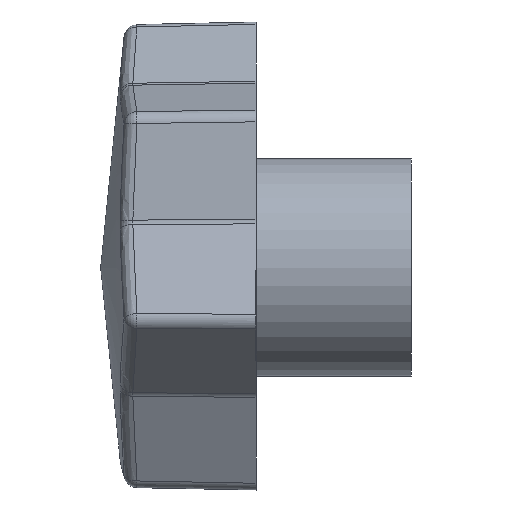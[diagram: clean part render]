
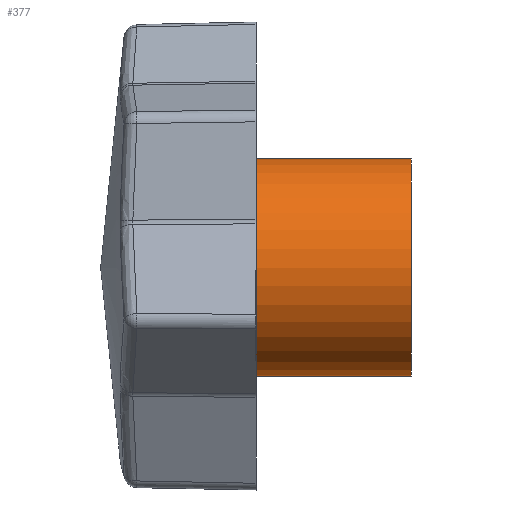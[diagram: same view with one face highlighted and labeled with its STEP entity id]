
A CAD part, left-side view. The second image highlights one B-rep face of the part: STEP entity #377.
In plain terms, the highlighted cylindrical face has radius 17.5 mm (diameter 35 mm), a partial arc.
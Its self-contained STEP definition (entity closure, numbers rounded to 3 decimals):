
#47 = DIRECTION ( 'NONE',  ( 0., 1., 0. ) ) ;
#96 = CARTESIAN_POINT ( 'NONE',  ( 0., 17.199, 0. ) ) ;
#254 = EDGE_CURVE ( 'NONE', #1723, #429, #568, .T. ) ;
#350 = CARTESIAN_POINT ( 'NONE',  ( 0., 17.199, 17.5 ) ) ;
#377 = ADVANCED_FACE ( 'NONE', ( #3391 ), #1074, .T. ) ;
#417 = DIRECTION ( 'NONE',  ( 0., 0., -1. ) ) ;
#429 = VERTEX_POINT ( 'NONE', #3324 ) ;
#523 = ORIENTED_EDGE ( 'NONE', *, *, #3414, .T. ) ;
#568 = LINE ( 'NONE', #3510, #2787 ) ;
#753 = CARTESIAN_POINT ( 'NONE',  ( 0., 25.001, -17.5 ) ) ;
#892 = LINE ( 'NONE', #753, #1077 ) ;
#1074 = CYLINDRICAL_SURFACE ( 'NONE', #3707, 17.5 ) ;
#1077 = VECTOR ( 'NONE', #1910, 1000. ) ;
#1126 = ORIENTED_EDGE ( 'NONE', *, *, #3645, .T. ) ;
#1242 = DIRECTION ( 'NONE',  ( 0., -1., 0. ) ) ;
#1248 = EDGE_LOOP ( 'NONE', ( #3783, #1126, #2030, #523 ) ) ;
#1465 = CARTESIAN_POINT ( 'NONE',  ( 0., -25., -17.5 ) ) ;
#1542 = CIRCLE ( 'NONE', #1901, 17.5 ) ;
#1638 = VERTEX_POINT ( 'NONE', #1465 ) ;
#1723 = VERTEX_POINT ( 'NONE', #350 ) ;
#1831 = CARTESIAN_POINT ( 'NONE',  ( 0., -25., 0. ) ) ;
#1901 = AXIS2_PLACEMENT_3D ( 'NONE', #96, #2175, #417 ) ;
#1910 = DIRECTION ( 'NONE',  ( 0., -1., 0. ) ) ;
#1978 = AXIS2_PLACEMENT_3D ( 'NONE', #1831, #47, #2134 ) ;
#2030 = ORIENTED_EDGE ( 'NONE', *, *, #2998, .T. ) ;
#2134 = DIRECTION ( 'NONE',  ( 0., 0., 1. ) ) ;
#2175 = DIRECTION ( 'NONE',  ( 0., -1., 0. ) ) ;
#2453 = VERTEX_POINT ( 'NONE', #3215 ) ;
#2787 = VECTOR ( 'NONE', #1242, 1000. ) ;
#2946 = CIRCLE ( 'NONE', #1978, 17.5 ) ;
#2998 = EDGE_CURVE ( 'NONE', #2453, #1638, #892, .T. ) ;
#3035 = DIRECTION ( 'NONE',  ( 0., 0., -1. ) ) ;
#3193 = DIRECTION ( 'NONE',  ( 0., -1., 0. ) ) ;
#3215 = CARTESIAN_POINT ( 'NONE',  ( 0., 17.199, -17.5 ) ) ;
#3324 = CARTESIAN_POINT ( 'NONE',  ( 0., -25., 17.5 ) ) ;
#3391 = FACE_OUTER_BOUND ( 'NONE', #1248, .T. ) ;
#3414 = EDGE_CURVE ( 'NONE', #1638, #429, #2946, .T. ) ;
#3510 = CARTESIAN_POINT ( 'NONE',  ( 0., 25.001, 17.5 ) ) ;
#3645 = EDGE_CURVE ( 'NONE', #1723, #2453, #1542, .T. ) ;
#3659 = CARTESIAN_POINT ( 'NONE',  ( 0., 25.001, 0. ) ) ;
#3707 = AXIS2_PLACEMENT_3D ( 'NONE', #3659, #3193, #3035 ) ;
#3783 = ORIENTED_EDGE ( 'NONE', *, *, #254, .F. ) ;
